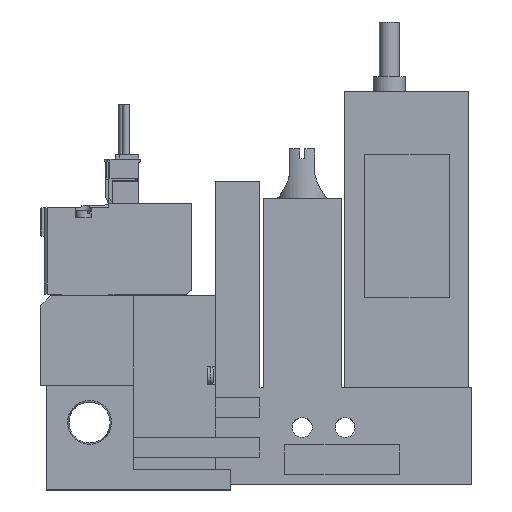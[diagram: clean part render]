
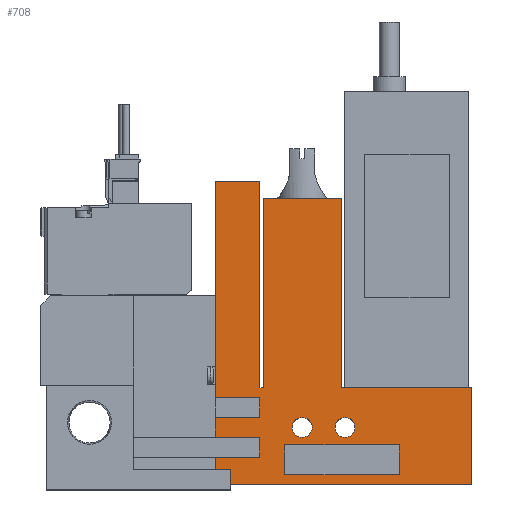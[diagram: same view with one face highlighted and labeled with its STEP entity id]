
A CAD part, top view. The second image highlights one B-rep face of the part: STEP entity #708.
In plain terms, the highlighted planar face has unit normal (0, 0, 1).
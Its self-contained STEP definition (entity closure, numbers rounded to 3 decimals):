
#708=ADVANCED_FACE('',(#1528,#1529,#1530,#1531),#1532,.T.);
#1528=FACE_OUTER_BOUND('',#2470,.T.);
#1529=FACE_BOUND('',#2471,.T.);
#1530=FACE_BOUND('',#2472,.T.);
#1531=FACE_BOUND('',#2473,.T.);
#1532=PLANE('',#2474);
#2470=EDGE_LOOP('',(#5412,#5413,#5414,#5415,#5416,#5417,#5418,#5419,#5420,#5421,#5422,#5423,#5424,#5425,#5426,#5427,#5428,#5429));
#2471=EDGE_LOOP('',(#5430,#5431,#5432,#5433));
#2472=EDGE_LOOP('',(#5434));
#2473=EDGE_LOOP('',(#5435));
#2474=AXIS2_PLACEMENT_3D('',#5436,#5437,#5438);
#5412=ORIENTED_EDGE('',*,*,#6858,.T.);
#5413=ORIENTED_EDGE('',*,*,#6835,.T.);
#5414=ORIENTED_EDGE('',*,*,#6830,.T.);
#5415=ORIENTED_EDGE('',*,*,#6832,.T.);
#5416=ORIENTED_EDGE('',*,*,#6800,.T.);
#5417=ORIENTED_EDGE('',*,*,#6893,.T.);
#5418=ORIENTED_EDGE('',*,*,#6823,.T.);
#5419=ORIENTED_EDGE('',*,*,#6891,.T.);
#5420=ORIENTED_EDGE('',*,*,#6809,.T.);
#5421=ORIENTED_EDGE('',*,*,#6897,.T.);
#5422=ORIENTED_EDGE('',*,*,#6883,.T.);
#5423=ORIENTED_EDGE('',*,*,#6880,.T.);
#5424=ORIENTED_EDGE('',*,*,#6877,.T.);
#5425=ORIENTED_EDGE('',*,*,#6873,.T.);
#5426=ORIENTED_EDGE('',*,*,#6870,.T.);
#5427=ORIENTED_EDGE('',*,*,#6867,.T.);
#5428=ORIENTED_EDGE('',*,*,#6864,.T.);
#5429=ORIENTED_EDGE('',*,*,#6861,.T.);
#5430=ORIENTED_EDGE('',*,*,#6846,.T.);
#5431=ORIENTED_EDGE('',*,*,#6847,.T.);
#5432=ORIENTED_EDGE('',*,*,#6842,.T.);
#5433=ORIENTED_EDGE('',*,*,#6844,.T.);
#5434=ORIENTED_EDGE('',*,*,#6816,.T.);
#5435=ORIENTED_EDGE('',*,*,#6814,.T.);
#5436=CARTESIAN_POINT('',(0.0,0.0,10.0));
#5437=DIRECTION('',(0.0,0.0,1.0));
#5438=DIRECTION('',(1.0,0.0,0.0));
#6800=EDGE_CURVE('',#8400,#8398,#8401,.T.);
#6809=EDGE_CURVE('',#8412,#8416,#8418,.T.);
#6814=EDGE_CURVE('',#8426,#8426,#8427,.T.);
#6816=EDGE_CURVE('',#8430,#8430,#8431,.T.);
#6823=EDGE_CURVE('',#8440,#8442,#8444,.T.);
#6830=EDGE_CURVE('',#8453,#8455,#8457,.T.);
#6832=EDGE_CURVE('',#8455,#8400,#8459,.T.);
#6835=EDGE_CURVE('',#8460,#8453,#8464,.T.);
#6842=EDGE_CURVE('',#8473,#8475,#8477,.T.);
#6844=EDGE_CURVE('',#8475,#8478,#8480,.T.);
#6846=EDGE_CURVE('',#8478,#8481,#8483,.T.);
#6847=EDGE_CURVE('',#8481,#8473,#8484,.T.);
#6858=EDGE_CURVE('',#8502,#8460,#8503,.T.);
#6861=EDGE_CURVE('',#8507,#8502,#8508,.T.);
#6864=EDGE_CURVE('',#8512,#8507,#8513,.T.);
#6867=EDGE_CURVE('',#8517,#8512,#8518,.T.);
#6870=EDGE_CURVE('',#8522,#8517,#8523,.T.);
#6873=EDGE_CURVE('',#8527,#8522,#8528,.T.);
#6877=EDGE_CURVE('',#8533,#8527,#8534,.T.);
#6880=EDGE_CURVE('',#8538,#8533,#8539,.T.);
#6883=EDGE_CURVE('',#8543,#8538,#8544,.T.);
#6891=EDGE_CURVE('',#8442,#8412,#8554,.T.);
#6893=EDGE_CURVE('',#8398,#8440,#8556,.T.);
#6897=EDGE_CURVE('',#8416,#8543,#8561,.T.);
#8398=VERTEX_POINT('',#10937);
#8400=VERTEX_POINT('',#10940);
#8401=LINE('',#10941,#10942);
#8412=VERTEX_POINT('',#10958);
#8416=VERTEX_POINT('',#10964);
#8418=LINE('',#10967,#10968);
#8426=VERTEX_POINT('',#10979);
#8427=CIRCLE('',#10980,2.0);
#8430=VERTEX_POINT('',#10983);
#8431=CIRCLE('',#10984,2.0);
#8440=VERTEX_POINT('',#10997);
#8442=VERTEX_POINT('',#11000);
#8444=LINE('',#11003,#11004);
#8453=VERTEX_POINT('',#11017);
#8455=VERTEX_POINT('',#11020);
#8457=LINE('',#11023,#11024);
#8459=LINE('',#11027,#11028);
#8460=VERTEX_POINT('',#11029);
#8464=LINE('',#11035,#11036);
#8473=VERTEX_POINT('',#11049);
#8475=VERTEX_POINT('',#11052);
#8477=LINE('',#11055,#11056);
#8478=VERTEX_POINT('',#11057);
#8480=LINE('',#11060,#11061);
#8481=VERTEX_POINT('',#11062);
#8483=LINE('',#11065,#11066);
#8484=LINE('',#11067,#11068);
#8502=VERTEX_POINT('',#11096);
#8503=LINE('',#11097,#11098);
#8507=VERTEX_POINT('',#11104);
#8508=LINE('',#11105,#11106);
#8512=VERTEX_POINT('',#11112);
#8513=LINE('',#11113,#11114);
#8517=VERTEX_POINT('',#11120);
#8518=LINE('',#11121,#11122);
#8522=VERTEX_POINT('',#11128);
#8523=LINE('',#11129,#11130);
#8527=VERTEX_POINT('',#11136);
#8528=LINE('',#11137,#11138);
#8533=VERTEX_POINT('',#11145);
#8534=LINE('',#11146,#11147);
#8538=VERTEX_POINT('',#11153);
#8539=LINE('',#11154,#11155);
#8543=VERTEX_POINT('',#11161);
#8544=LINE('',#11162,#11163);
#8554=LINE('',#11180,#11181);
#8556=LINE('',#11184,#11185);
#8561=LINE('',#11193,#11194);
#10937=CARTESIAN_POINT('',(35.1,9.5,10.0));
#10940=CARTESIAN_POINT('',(35.1,13.5,10.0));
#10941=CARTESIAN_POINT('',(35.1,0.0,10.0));
#10942=VECTOR('',#12586,1.0);
#10958=CARTESIAN_POINT('',(35.1,5.5,10.0));
#10964=CARTESIAN_POINT('',(35.1,0.0,10.0));
#10967=CARTESIAN_POINT('',(35.1,0.0,10.0));
#10968=VECTOR('',#12595,1.0);
#10979=CARTESIAN_POINT('',(63.2,11.5,10.0));
#10980=AXIS2_PLACEMENT_3D('',#12602,#12603,#12604);
#10983=CARTESIAN_POINT('',(54.6,11.5,10.0));
#10984=AXIS2_PLACEMENT_3D('',#12608,#12609,#12610);
#10997=CARTESIAN_POINT('',(44.1,9.5,10.0));
#11000=CARTESIAN_POINT('',(44.1,5.5,10.0));
#11003=CARTESIAN_POINT('',(44.1,0.0,10.0));
#11004=VECTOR('',#12617,1.0);
#11017=CARTESIAN_POINT('',(44.1,17.5,10.0));
#11020=CARTESIAN_POINT('',(44.1,13.5,10.0));
#11023=CARTESIAN_POINT('',(44.1,0.0,10.0));
#11024=VECTOR('',#12624,1.0);
#11027=CARTESIAN_POINT('',(0.0,13.5,10.0));
#11028=VECTOR('',#12626,1.0);
#11029=CARTESIAN_POINT('',(35.1,17.5,10.0));
#11035=CARTESIAN_POINT('',(0.0,17.5,10.0));
#11036=VECTOR('',#12629,1.0);
#11049=CARTESIAN_POINT('',(72.1,8.0,10.0));
#11052=CARTESIAN_POINT('',(72.1,2.0,10.0));
#11055=CARTESIAN_POINT('',(72.1,0.0,10.0));
#11056=VECTOR('',#12636,1.0);
#11057=CARTESIAN_POINT('',(49.1,2.0,10.0));
#11060=CARTESIAN_POINT('',(0.0,2.0,10.0));
#11061=VECTOR('',#12638,1.0);
#11062=CARTESIAN_POINT('',(49.1,8.0,10.0));
#11065=CARTESIAN_POINT('',(49.1,0.0,10.0));
#11066=VECTOR('',#12640,1.0);
#11067=CARTESIAN_POINT('',(0.0,8.0,10.0));
#11068=VECTOR('',#12641,1.0);
#11096=CARTESIAN_POINT('',(35.1,61.0,10.0));
#11097=CARTESIAN_POINT('',(35.1,61.0,10.0));
#11098=VECTOR('',#12652,1.0);
#11104=CARTESIAN_POINT('',(44.1,61.0,10.0));
#11105=CARTESIAN_POINT('',(44.1,61.0,10.0));
#11106=VECTOR('',#12655,1.0);
#11112=CARTESIAN_POINT('',(44.1,19.5,10.0));
#11113=CARTESIAN_POINT('',(44.1,19.5,10.0));
#11114=VECTOR('',#12658,1.0);
#11120=CARTESIAN_POINT('',(44.75,19.5,10.0));
#11121=CARTESIAN_POINT('',(44.75,19.5,10.0));
#11122=VECTOR('',#12661,1.0);
#11128=CARTESIAN_POINT('',(44.75,57.5,10.0));
#11129=CARTESIAN_POINT('',(44.75,57.5,10.0));
#11130=VECTOR('',#12664,1.0);
#11136=CARTESIAN_POINT('',(60.45,57.5,10.0));
#11137=CARTESIAN_POINT('',(60.45,57.5,10.0));
#11138=VECTOR('',#12667,1.0);
#11145=CARTESIAN_POINT('',(60.45,19.5,10.0));
#11146=CARTESIAN_POINT('',(60.45,19.5,10.0));
#11147=VECTOR('',#12673,1.0);
#11153=CARTESIAN_POINT('',(86.6,19.5,10.0));
#11154=CARTESIAN_POINT('',(86.6,19.5,10.0));
#11155=VECTOR('',#12676,1.0);
#11161=CARTESIAN_POINT('',(86.6,0.0,10.0));
#11162=CARTESIAN_POINT('',(86.6,0.0,10.0));
#11163=VECTOR('',#12679,1.0);
#11180=CARTESIAN_POINT('',(0.0,5.5,10.0));
#11181=VECTOR('',#12687,1.0);
#11184=CARTESIAN_POINT('',(0.0,9.5,10.0));
#11185=VECTOR('',#12689,1.0);
#11193=CARTESIAN_POINT('',(18.6,0.0,10.0));
#11194=VECTOR('',#12693,1.0);
#12586=DIRECTION('',(0.0,-1.0,0.0));
#12595=DIRECTION('',(0.0,-1.0,0.0));
#12602=CARTESIAN_POINT('',(61.2,11.5,10.0));
#12603=DIRECTION('',(0.0,0.0,-1.0));
#12604=DIRECTION('',(1.0,0.0,0.0));
#12608=CARTESIAN_POINT('',(52.6,11.5,10.0));
#12609=DIRECTION('',(0.0,0.0,-1.0));
#12610=DIRECTION('',(1.0,0.0,0.0));
#12617=DIRECTION('',(0.0,-1.0,0.0));
#12624=DIRECTION('',(0.0,-1.0,0.0));
#12626=DIRECTION('',(-1.0,0.0,0.0));
#12629=DIRECTION('',(1.0,0.0,0.0));
#12636=DIRECTION('',(0.0,-1.0,0.0));
#12638=DIRECTION('',(-1.0,0.0,0.0));
#12640=DIRECTION('',(0.0,1.0,0.0));
#12641=DIRECTION('',(1.0,0.0,0.0));
#12652=DIRECTION('',(0.0,-1.0,0.0));
#12655=DIRECTION('',(-1.0,0.0,0.0));
#12658=DIRECTION('',(0.0,1.0,0.0));
#12661=DIRECTION('',(-1.0,0.0,0.0));
#12664=DIRECTION('',(0.0,-1.0,0.0));
#12667=DIRECTION('',(-1.0,0.0,0.0));
#12673=DIRECTION('',(0.0,1.0,0.0));
#12676=DIRECTION('',(-1.0,0.0,0.0));
#12679=DIRECTION('',(0.0,1.0,0.0));
#12687=DIRECTION('',(-1.0,0.0,0.0));
#12689=DIRECTION('',(1.0,0.0,0.0));
#12693=DIRECTION('',(1.0,0.0,0.0));
